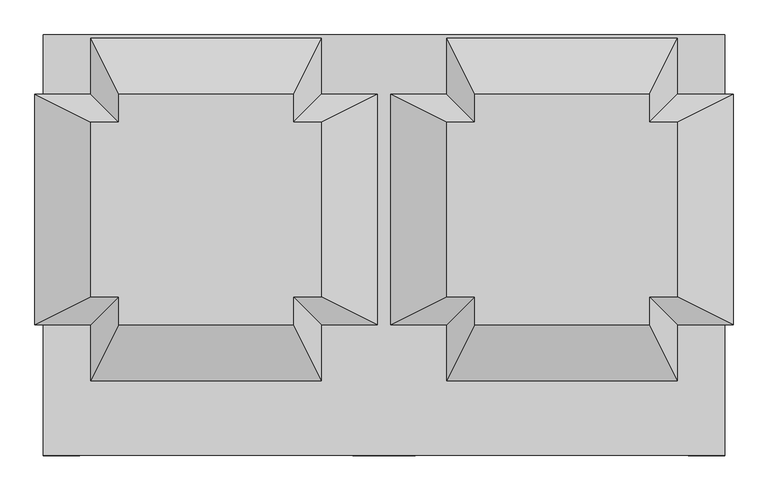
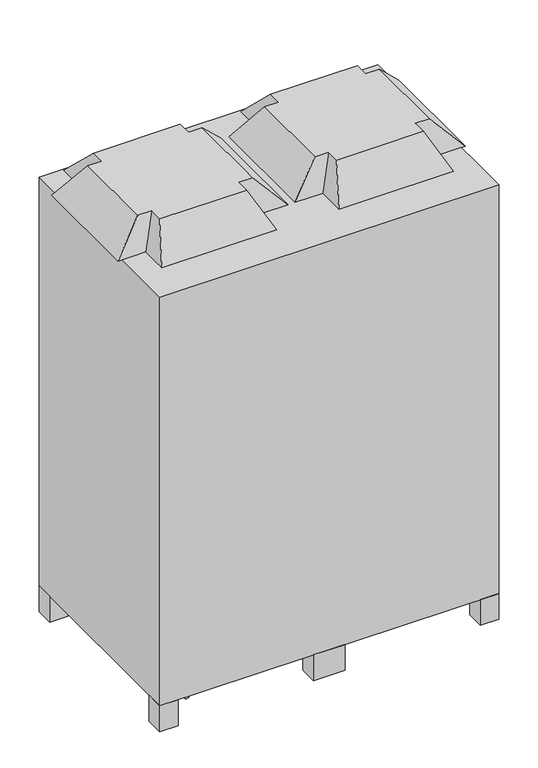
"""IFC4 building model written with IfcOpenShell, lengths in millimetres: proxy geometry, Condenser-Daikin-RXYQ14-16-18P : RXYQ14P, 400v/50Hz/3Ph."""

from ifc_helpers import new_model, si_unit, point, frame, frame_2d, origin, origin_with_axes, place, context, project, spatial, polyline, circle_curve, trimmed, segment, composite_curve, outline, extrude, faceted_brep, source, transform, mapped, element, save


def mechanical_equipment_ce02502f(model_context):
    return source(origin(), model_context, "Body", "SolidModel", [
        faceted_brep([(114.3, 223.75, 1790.0), (114.3, -93.75, 1790.0), (165.1, -93.75, 1790.0), (165.1, -144.55, 1790.0), (482.6, -144.55, 1790.0), (482.6, -93.75, 1790.0), (533.4, -93.75, 1790.0), (533.4, 223.75, 1790.0), (482.6, 223.75, 1790.0), (482.6, 274.55, 1790.0), (165.1, 274.55, 1790.0), (165.1, 223.75, 1790.0), (12.7, 274.55, 1680.0), (114.3, 274.55, 1680.0), (114.3, 376.15, 1680.0), (533.4, 376.15, 1680.0), (533.4, 274.55, 1680.0), (635.0, 274.55, 1680.0), (635.0, -144.55, 1680.0), (533.4, -144.55, 1680.0), (533.4, -246.15, 1680.0), (114.3, -246.15, 1680.0), (114.3, -144.55, 1680.0), (12.7, -144.55, 1680.0)], [[[0, 1, 2, 3, 4, 5, 6, 7, 8, 9, 10, 11]], [[12, 13, 14, 15, 16, 17, 18, 19, 20, 21, 22, 23]], [[12, 23, 1, 0]], [[23, 22, 2, 1]], [[22, 21, 3, 2]], [[21, 20, 4, 3]], [[20, 19, 5, 4]], [[19, 18, 6, 5]], [[18, 17, 7, 6]], [[17, 16, 8, 7]], [[16, 15, 9, 8]], [[15, 14, 10, 9]], [[14, 13, 11, 10]], [[13, 12, 0, 11]]]),
        faceted_brep([(-165.1, 274.55, 1790.0), (-482.6, 274.55, 1790.0), (-482.6, 223.75, 1790.0), (-533.4, 223.75, 1790.0), (-533.4, -93.75, 1790.0), (-482.6, -93.75, 1790.0), (-482.6, -144.55, 1790.0), (-165.1, -144.55, 1790.0), (-165.1, -93.75, 1790.0), (-114.3, -93.75, 1790.0), (-114.3, 223.75, 1790.0), (-165.1, 223.75, 1790.0), (-114.3, 376.15, 1680.0), (-114.3, 274.55, 1680.0), (-12.7, 274.55, 1680.0), (-12.7, -144.55, 1680.0), (-114.3, -144.55, 1680.0), (-114.3, -246.15, 1680.0), (-533.4, -246.15, 1680.0), (-533.4, -144.55, 1680.0), (-635.0, -144.55, 1680.0), (-635.0, 274.55, 1680.0), (-533.4, 274.55, 1680.0), (-533.4, 376.15, 1680.0)], [[[0, 1, 2, 3, 4, 5, 6, 7, 8, 9, 10, 11]], [[12, 13, 14, 15, 16, 17, 18, 19, 20, 21, 22, 23]], [[12, 23, 1, 0]], [[23, 22, 2, 1]], [[22, 21, 3, 2]], [[21, 20, 4, 3]], [[20, 19, 5, 4]], [[19, 18, 6, 5]], [[18, 17, 7, 6]], [[17, 16, 8, 7]], [[16, 15, 9, 8]], [[15, 14, 10, 9]], [[14, 13, 11, 10]], [[13, 12, 0, 11]]]),
        extrude(outline(polyline([(57.15, 315.8), (-57.15, 315.8), (-57.15, 382.5), (57.15, 382.5), (57.15, 315.8)])), origin_with_axes(), (0.0, 0.0, 1.0), 100.0252),
        extrude(outline(polyline([(57.15, -382.5), (-57.15, -382.5), (-57.15, -315.8), (57.15, -315.8), (57.15, -382.5)])), origin_with_axes(), (0.0, 0.0, 1.0), 100.0252),
        extrude(outline(polyline([(-553.3, 315.8), (-620.0, 315.8), (-620.0, 382.5), (-553.3, 382.5), (-553.3, 315.8)])), origin_with_axes(), (0.0, 0.0, 1.0), 100.0252),
        extrude(outline(polyline([(620.0, 315.8), (553.3, 315.8), (553.3, 382.5), (620.0, 382.5), (620.0, 315.8)])), origin_with_axes(), (0.0, 0.0, 1.0), 100.0252),
        extrude(outline(polyline([(620.0, -382.5), (553.3, -382.5), (553.3, -315.8), (620.0, -315.8), (620.0, -382.5)])), origin_with_axes(), (0.0, 0.0, 1.0), 100.0252),
        extrude(outline(polyline([(-553.3, -382.5), (-620.0, -382.5), (-620.0, -315.8), (-553.3, -315.8), (-553.3, -382.5)])), origin_with_axes(), (0.0, 0.0, 1.0), 100.0252),
        extrude(outline(polyline([(620.0, -382.5), (-620.0, -382.5), (-620.0, 382.5), (620.0, 382.5), (620.0, -382.5)])), frame((0.0, 0.0, 100.0252), z_axis=(0.0, 0.0, 1.0), x_axis=(1.0, 0.0, 0.0)), (0.0, 0.0, 1.0), 1579.9748),
        extrude(outline(composite_curve([segment(trimmed(circle_curve(frame_2d((-408.8766342, -215.7766342)), 7.9375), [point((-416.8141342, -215.7766342))], [point((-400.9391342, -215.7766342))], False, "CARTESIAN"), True, "CONTINUOUS"), segment(trimmed(circle_curve(frame_2d((-408.8766342, -215.7766342)), 7.9375), [point((-400.9391342, -215.7766342))], [point((-416.8141342, -215.7766342))], False, "CARTESIAN"), True, "CONTINUOUS")], self_intersect=False)), frame((0.0, 0.0, 61.9252), z_axis=(0.0, 0.0, 1.0), x_axis=(1.0, 0.0, 0.0)), (0.0, 0.0, 1.0), 38.1),
        extrude(outline(composite_curve([segment(trimmed(circle_curve(frame_2d((-451.696163, -257.096163)), 9.5746094), [point((-461.2707724, -257.096163))], [point((-442.1215536, -257.096163))], False, "CARTESIAN"), True, "CONTINUOUS"), segment(trimmed(circle_curve(frame_2d((-451.696163, -257.096163)), 9.5746094), [point((-442.1215536, -257.096163))], [point((-461.2707724, -257.096163))], False, "CARTESIAN"), True, "CONTINUOUS")], self_intersect=False)), origin_with_axes(), (0.0, 0.0, 1.0), 100.0252),
        extrude(outline(composite_curve([segment(trimmed(circle_curve(frame_2d((-408.803837, -253.903837)), 4.7625), [point((-413.566337, -253.903837))], [point((-404.041337, -253.903837))], False, "CARTESIAN"), True, "CONTINUOUS"), segment(trimmed(circle_curve(frame_2d((-408.803837, -253.903837)), 4.7625), [point((-404.041337, -253.903837))], [point((-413.566337, -253.903837))], False, "CARTESIAN"), True, "CONTINUOUS")], self_intersect=False)), frame((0.0, 0.0, 61.9252), z_axis=(0.0, 0.0, 1.0), x_axis=(1.0, 0.0, 0.0)), (0.0, 0.0, 1.0), 38.1),
    ])


if __name__ == "__main__":
    model = new_model("IFC4")
    model_context = context("Model", 3, world=origin())
    ifc_project = project(units=[si_unit("LENGTHUNIT", "METRE", prefix="MILLI")], contexts=[model_context])
    site = spatial("IfcSite", under=ifc_project)
    building = spatial("IfcBuilding", under=site)
    placement = place(None, origin())
    mechanical_equipment_shape = mechanical_equipment_ce02502f(model_context)
    element("IfcBuildingElementProxy", 1, Name="Condenser-Daikin-RXYQ14-16-18P : RXYQ14P, 400v/50Hz/3Ph", ObjectType="Condenser-Daikin-RXYQ14-16-18P : RXYQ14P, 400v/50Hz/3Ph", at=placement, inside=building, context=model_context, shape_type="MappedRepresentation", body=[
        mapped(mechanical_equipment_shape, transform((0.0, 0.0, 0.0), x_axis=(1.0, 0.0, 0.0), y_axis=(0.0, 1.0, 0.0), z_axis=(0.0, 0.0, 1.0))),
    ])
    save(model, "model.ifc")
